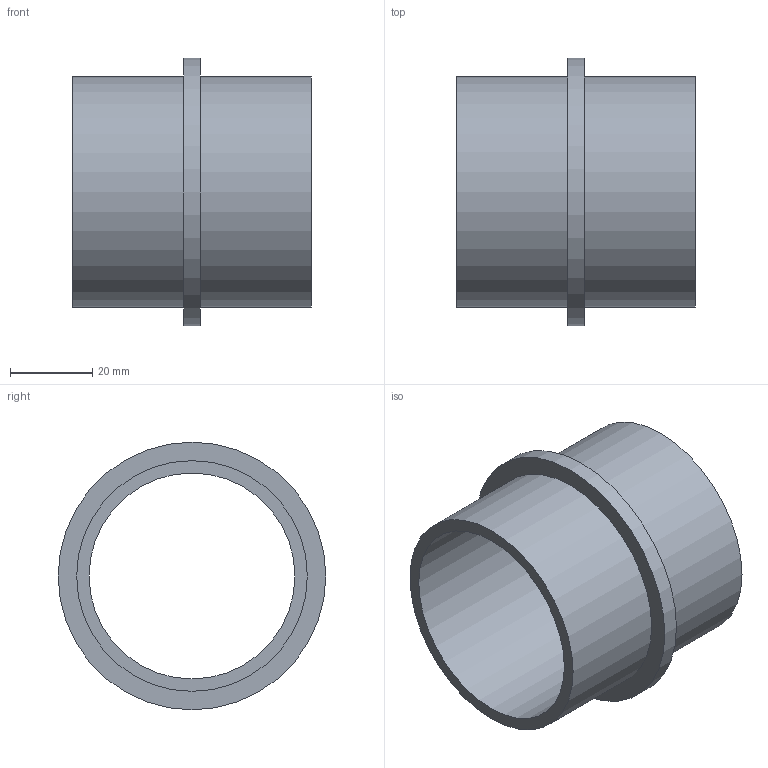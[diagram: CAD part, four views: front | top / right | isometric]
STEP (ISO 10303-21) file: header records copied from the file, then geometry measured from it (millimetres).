
FILE_DESCRIPTION(/* description */ (''),/* implementation_level */ '2;1');
FILE_NAME(/* name */ 'Z:\Geberit\Export\NewStep\Bundbüchse_Einzelteil\stp\363772.stp',/* time_stamp */ '2014-04-03T12:06:37+02:00',/* author */ ('nelson'),/* organization */ (''),/* preprocessor_version */ 'ST-DEVELOPER v15.2',/* originating_system */ 'Autodesk Inventor 2014',/* authorisation */ '');
FILE_SCHEMA (('AUTOMOTIVE_DESIGN { 1 0 10303 214 3 1 1 }'));
Length unit declared in the file: millimetre
Products named in the file (1): 363772
Bounding box: 58 x 65 x 65 mm (x, y, z)
Volume: 32393 mm3; surface area: 22137.2 mm2
Topology: 1 solids, 1 shells, 8 faces, 12 edges, 8 vertices
Faces by surface type: cylinder 4, plane 4
Full cylindrical faces by diameter (mm): 50 x1, 56 x2, 65 x1
Entity records: 190 total; most frequent: DIRECTION 34, CARTESIAN_POINT 25, AXIS2_PLACEMENT_3D 17, EDGE_LOOP 16, ORIENTED_EDGE 16, FACE_BOUND 10, CIRCLE 8, VERTEX_POINT 8
